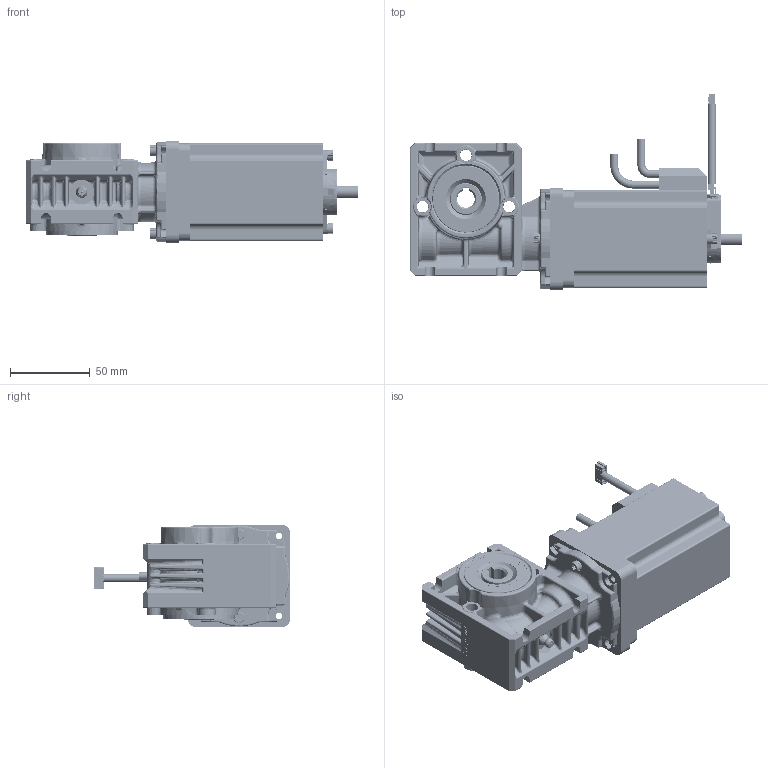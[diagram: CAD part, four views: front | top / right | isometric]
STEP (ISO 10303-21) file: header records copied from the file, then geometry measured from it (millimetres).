
FILE_DESCRIPTION (( 'STEP AP214' ), '1' );
FILE_NAME ('PBL60-50-GB28 - Encoder.STEP', '2024-09-14T12:37:01', ( '' ), ( '' ), 'SwSTEP 2.0', 'SolidWorks 2023', '' );
FILE_SCHEMA (( 'AUTOMOTIVE_DESIGN' ));
Length unit declared in the file: millimetre
Products named in the file (1): PBL60-50-GB28 - Encoder
Bounding box: 208 x 122.95 x 64 mm (x, y, z)
Surface area: 160188.3 mm2 (no closed solid volume)
Topology: 0 solids, 39 shells, 6612 faces, 17480 edges, 11101 vertices
Faces by surface type: plane 2747, cylinder 2170, bspline 1075, cone 349, torus 155, sphere 116
Entity records: 347778 total; most frequent: CARTESIAN_POINT 128058, ORIENTED_EDGE 34682, DIRECTION 24289, EDGE_CURVE 17343, VERTEX_POINT 11092, AXIS2_PLACEMENT_3D 8988, EDGE_LOOP 7145, B_SPLINE_CURVE_WITH_KNOTS 7103
